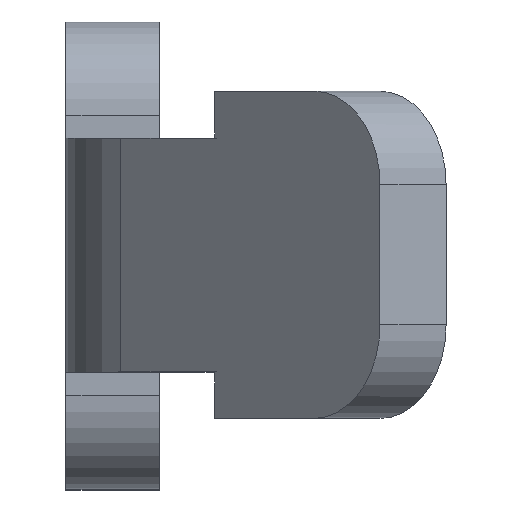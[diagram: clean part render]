
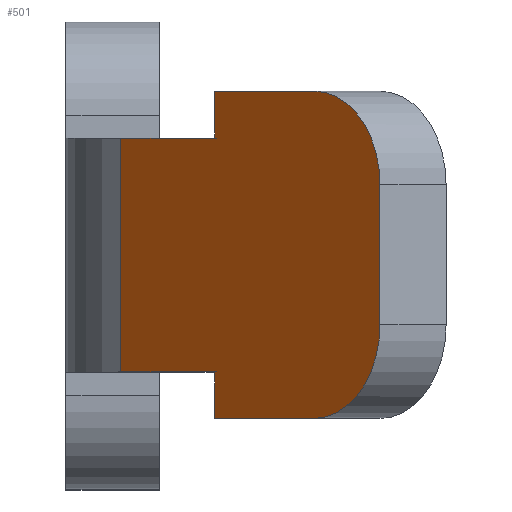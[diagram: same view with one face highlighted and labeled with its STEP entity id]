
A CAD part, top view. The second image highlights one B-rep face of the part: STEP entity #501.
In plain terms, the highlighted planar face has unit normal (-0.707, 0, 0.707).
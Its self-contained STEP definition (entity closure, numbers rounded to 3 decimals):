
#18=PLANE('',#555);
#39=FACE_OUTER_BOUND('',#68,.T.);
#68=EDGE_LOOP('',(#352,#353,#354,#355,#356,#357,#358,#359,#360,#361));
#99=LINE('',#761,#154);
#102=LINE('',#767,#157);
#103=LINE('',#769,#158);
#104=LINE('',#771,#159);
#105=LINE('',#773,#160);
#106=LINE('',#775,#161);
#107=LINE('',#777,#162);
#108=LINE('',#779,#163);
#154=VECTOR('',#610,10.);
#157=VECTOR('',#615,10.);
#158=VECTOR('',#616,10.);
#159=VECTOR('',#617,10.);
#160=VECTOR('',#618,10.);
#161=VECTOR('',#619,5.76);
#162=VECTOR('',#620,10.);
#163=VECTOR('',#621,10.);
#207=CIRCLE('',#552,4.);
#209=CIRCLE('',#556,4.);
#225=VERTEX_POINT('',#751);
#226=VERTEX_POINT('',#752);
#229=VERTEX_POINT('',#760);
#231=VERTEX_POINT('',#766);
#232=VERTEX_POINT('',#768);
#233=VERTEX_POINT('',#770);
#234=VERTEX_POINT('',#772);
#235=VERTEX_POINT('',#774);
#236=VERTEX_POINT('',#776);
#237=VERTEX_POINT('',#778);
#271=EDGE_CURVE('',#225,#226,#207,.T.);
#275=EDGE_CURVE('',#226,#229,#99,.T.);
#278=EDGE_CURVE('',#231,#225,#102,.T.);
#279=EDGE_CURVE('',#231,#232,#103,.T.);
#280=EDGE_CURVE('',#233,#232,#104,.T.);
#281=EDGE_CURVE('',#233,#234,#105,.T.);
#282=EDGE_CURVE('',#235,#234,#106,.T.);
#283=EDGE_CURVE('',#235,#236,#107,.T.);
#284=EDGE_CURVE('',#236,#237,#108,.T.);
#285=EDGE_CURVE('',#229,#237,#209,.T.);
#352=ORIENTED_EDGE('',*,*,#271,.F.);
#353=ORIENTED_EDGE('',*,*,#278,.F.);
#354=ORIENTED_EDGE('',*,*,#279,.T.);
#355=ORIENTED_EDGE('',*,*,#280,.F.);
#356=ORIENTED_EDGE('',*,*,#281,.T.);
#357=ORIENTED_EDGE('',*,*,#282,.F.);
#358=ORIENTED_EDGE('',*,*,#283,.T.);
#359=ORIENTED_EDGE('',*,*,#284,.T.);
#360=ORIENTED_EDGE('',*,*,#285,.F.);
#361=ORIENTED_EDGE('',*,*,#275,.F.);
#501=ADVANCED_FACE('',(#39),#18,.F.);
#552=AXIS2_PLACEMENT_3D('',#753,#602,#603);
#555=AXIS2_PLACEMENT_3D('',#765,#613,#614);
#556=AXIS2_PLACEMENT_3D('',#780,#622,#623);
#602=DIRECTION('center_axis',(0.707,0.,-0.707));
#603=DIRECTION('ref_axis',(0.5,0.707,0.5));
#610=DIRECTION('',(0.,-1.,0.));
#613=DIRECTION('center_axis',(0.707,0.,-0.707));
#614=DIRECTION('ref_axis',(-0.707,0.,-0.707));
#615=DIRECTION('',(0.707,0.,0.707));
#616=DIRECTION('',(0.,-1.,0.));
#617=DIRECTION('',(0.707,0.,0.707));
#618=DIRECTION('',(0.,-1.,0.));
#619=DIRECTION('',(-0.707,0.,-0.707));
#620=DIRECTION('',(0.,-1.,0.));
#621=DIRECTION('',(0.707,0.,0.707));
#622=DIRECTION('center_axis',(0.707,0.,-0.707));
#623=DIRECTION('ref_axis',(0.5,-0.707,0.5));
#751=CARTESIAN_POINT('',(10.607,7.,29.92));
#752=CARTESIAN_POINT('',(13.435,3.,32.749));
#753=CARTESIAN_POINT('Origin',(10.607,3.,29.92));
#760=CARTESIAN_POINT('',(13.435,-3.,32.749));
#761=CARTESIAN_POINT('',(13.435,7.,32.749));
#765=CARTESIAN_POINT('Origin',(2.754,0.,22.068));
#766=CARTESIAN_POINT('',(6.364,7.,25.678));
#767=CARTESIAN_POINT('',(6.364,7.,25.678));
#768=CARTESIAN_POINT('',(6.364,5.,25.678));
#769=CARTESIAN_POINT('',(6.364,7.,25.678));
#770=CARTESIAN_POINT('',(2.343,5.,21.657));
#771=CARTESIAN_POINT('',(2.343,5.,21.657));
#772=CARTESIAN_POINT('',(2.343,-5.,21.657));
#773=CARTESIAN_POINT('',(2.343,0.,21.657));
#774=CARTESIAN_POINT('',(6.364,-5.,25.678));
#775=CARTESIAN_POINT('',(-10.452,-5.,8.861));
#776=CARTESIAN_POINT('',(6.364,-7.,25.678));
#777=CARTESIAN_POINT('',(6.364,7.,25.678));
#778=CARTESIAN_POINT('',(10.607,-7.,29.92));
#779=CARTESIAN_POINT('',(6.364,-7.,25.678));
#780=CARTESIAN_POINT('Origin',(10.607,-3.,29.92));
